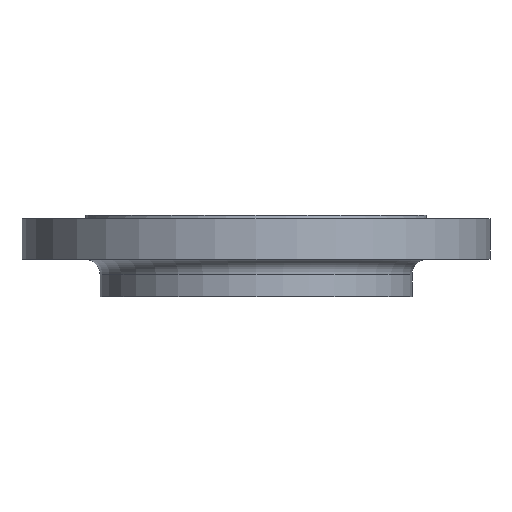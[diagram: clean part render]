
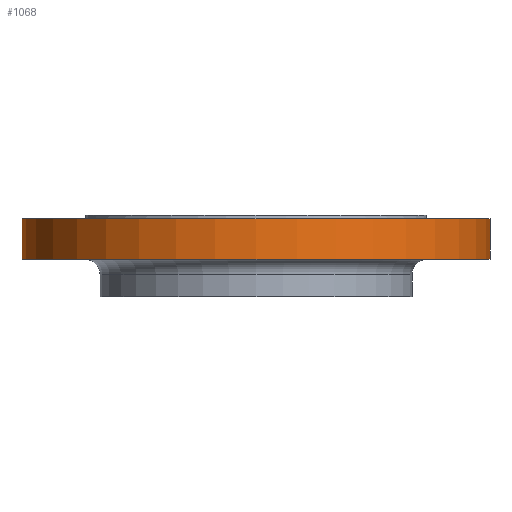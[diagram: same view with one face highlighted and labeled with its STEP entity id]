
A CAD part, front view. The second image highlights one B-rep face of the part: STEP entity #1068.
In plain terms, the highlighted cylindrical face has radius 150 mm (diameter 300 mm), a partial arc.
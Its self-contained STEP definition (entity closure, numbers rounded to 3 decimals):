
#1 = CARTESIAN_POINT ( 'NONE',  ( 150., 0., -28. ) ) ;
#3 = CARTESIAN_POINT ( 'NONE',  ( -150., 0., -28. ) ) ;
#76 = CARTESIAN_POINT ( 'NONE',  ( 150., 0., -2. ) ) ;
#91 = VECTOR ( 'NONE', #363, 1000. ) ;
#116 = EDGE_CURVE ( 'NONE', #178, #1097, #655, .T. ) ;
#117 = EDGE_CURVE ( 'NONE', #320, #1097, #702, .T. ) ;
#169 = VERTEX_POINT ( 'NONE', #1 ) ;
#178 = VERTEX_POINT ( 'NONE', #3 ) ;
#182 = DIRECTION ( 'NONE',  ( 0., 0., 1. ) ) ;
#189 = CARTESIAN_POINT ( 'NONE',  ( 0., 0., -85. ) ) ;
#259 = AXIS2_PLACEMENT_3D ( 'NONE', #189, #583, #832 ) ;
#293 = AXIS2_PLACEMENT_3D ( 'NONE', #675, #674, #650 ) ;
#298 = CARTESIAN_POINT ( 'NONE',  ( -150., 0., -2. ) ) ;
#320 = VERTEX_POINT ( 'NONE', #76 ) ;
#343 = EDGE_LOOP ( 'NONE', ( #931, #933, #935, #936 ) ) ;
#363 = DIRECTION ( 'NONE',  ( 0., 0., 1. ) ) ;
#372 = CARTESIAN_POINT ( 'NONE',  ( 150., 0., -85. ) ) ;
#373 = LINE ( 'NONE', #372, #91 ) ;
#374 = EDGE_CURVE ( 'NONE', #178, #169, #570, .T. ) ;
#406 = CARTESIAN_POINT ( 'NONE',  ( 0., 0., -28. ) ) ;
#449 = EDGE_CURVE ( 'NONE', #169, #320, #373, .T. ) ;
#570 = CIRCLE ( 'NONE', #1168, 150. ) ;
#583 = DIRECTION ( 'NONE',  ( 0., 0., 1. ) ) ;
#650 = DIRECTION ( 'NONE',  ( -1., 0., 0. ) ) ;
#655 = LINE ( 'NONE', #660, #703 ) ;
#659 = DIRECTION ( 'NONE',  ( 0., 0., 1. ) ) ;
#660 = CARTESIAN_POINT ( 'NONE',  ( -150., 0., -85. ) ) ;
#662 = FACE_OUTER_BOUND ( 'NONE', #343, .T. ) ;
#674 = DIRECTION ( 'NONE',  ( 0., 0., -1. ) ) ;
#675 = CARTESIAN_POINT ( 'NONE',  ( 0., 0., -2. ) ) ;
#702 = CIRCLE ( 'NONE', #293, 150. ) ;
#703 = VECTOR ( 'NONE', #659, 1000. ) ;
#832 = DIRECTION ( 'NONE',  ( 1., 0., 0. ) ) ;
#931 = ORIENTED_EDGE ( 'NONE', *, *, #116, .F. ) ;
#933 = ORIENTED_EDGE ( 'NONE', *, *, #374, .T. ) ;
#935 = ORIENTED_EDGE ( 'NONE', *, *, #449, .T. ) ;
#936 = ORIENTED_EDGE ( 'NONE', *, *, #117, .T. ) ;
#945 = CYLINDRICAL_SURFACE ( 'NONE', #259, 150. ) ;
#1068 = ADVANCED_FACE ( 'NONE', ( #662 ), #945, .T. ) ;
#1097 = VERTEX_POINT ( 'NONE', #298 ) ;
#1168 = AXIS2_PLACEMENT_3D ( 'NONE', #406, #182, #1171 ) ;
#1171 = DIRECTION ( 'NONE',  ( 1., 0., 0. ) ) ;
